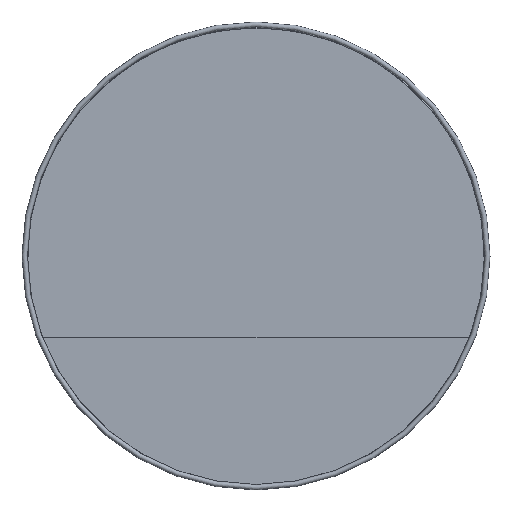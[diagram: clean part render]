
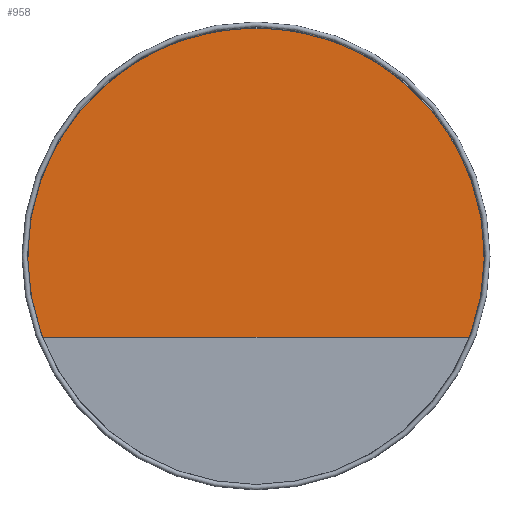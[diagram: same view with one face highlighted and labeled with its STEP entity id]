
A CAD part, top view. The second image highlights one B-rep face of the part: STEP entity #958.
In plain terms, the highlighted planar face has unit normal (0, 0, 1).
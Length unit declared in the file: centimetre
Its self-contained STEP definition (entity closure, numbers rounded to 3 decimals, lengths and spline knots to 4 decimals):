
#58=LINE('',#1629,#98);
#98=VECTOR('',#1382,83.4461);
#245=FACE_OUTER_BOUND('',#363,.T.);
#363=EDGE_LOOP('',(#791,#792));
#420=CIRCLE('',#1089,44.65);
#497=VERTEX_POINT('',#1622);
#498=VERTEX_POINT('',#1624);
#593=EDGE_CURVE('',#498,#497,#420,.T.);
#596=EDGE_CURVE('',#497,#498,#58,.T.);
#791=ORIENTED_EDGE('',*,*,#596,.T.);
#792=ORIENTED_EDGE('',*,*,#593,.T.);
#827=PLANE('',#1091);
#958=ADVANCED_FACE('',(#245),#827,.T.);
#1089=AXIS2_PLACEMENT_3D('',#1625,#1376,#1377);
#1091=AXIS2_PLACEMENT_3D('',#1630,#1383,#1384);
#1376=DIRECTION('center_axis',(0.,0.,1.));
#1377=DIRECTION('ref_axis',(1.,0.,0.));
#1382=DIRECTION('',(1.,0.,0.));
#1383=DIRECTION('center_axis',(0.,0.,1.));
#1384=DIRECTION('ref_axis',(1.,0.,0.));
#1622=CARTESIAN_POINT('',(-41.723,-21.7,2.276));
#1624=CARTESIAN_POINT('',(41.723,-21.7,2.276));
#1625=CARTESIAN_POINT('Origin',(0.,-5.8,2.276));
#1629=CARTESIAN_POINT('',(-41.723,-21.7,2.276));
#1630=CARTESIAN_POINT('Origin',(0.,1.0891,
2.276));
